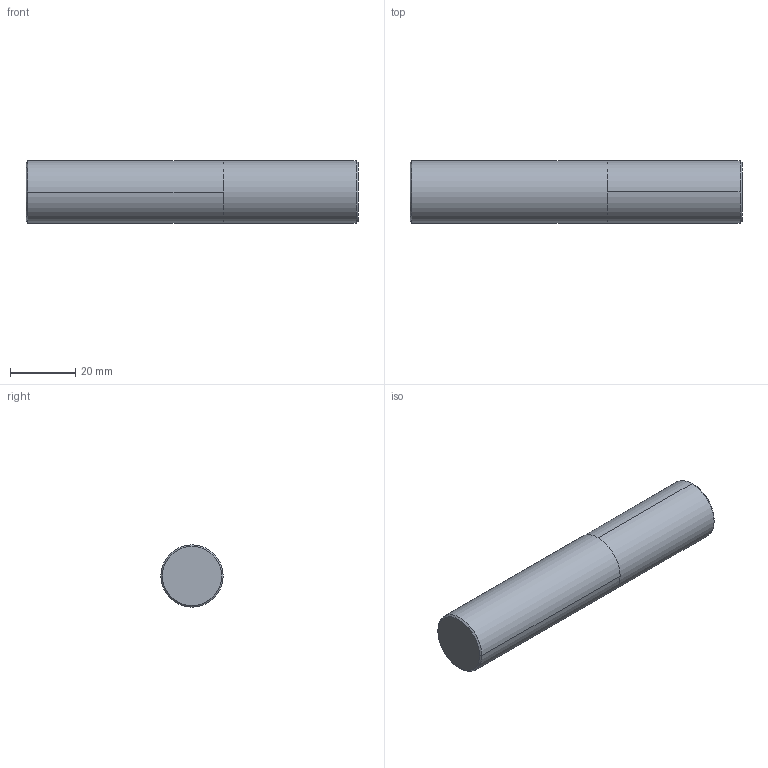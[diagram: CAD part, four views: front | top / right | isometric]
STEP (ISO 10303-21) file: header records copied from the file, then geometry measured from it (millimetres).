
FILE_DESCRIPTION (( 'STEP AP214' ), '1' );
FILE_NAME ('EH095048.STEP', '2021-03-15T00:38:30', ( 'USER' ), ( 'Hewlett-Packard Company' ), 'SwSTEP 2.0', 'SolidWorks 2014', '' );
FILE_SCHEMA (( 'AUTOMOTIVE_DESIGN' ));
Length unit declared in the file: millimetre
Products named in the file (1): EH095048
Bounding box: 101.6 x 19.05 x 19.05 mm (x, y, z)
Volume: 28940.1 mm3; surface area: 7180.9 mm2
Topology: 2 solids, 2 shells, 12 faces, 20 edges, 12 vertices
Faces by surface type: cylinder 4, cone 4, plane 4
Entity records: 393 total; most frequent: DIRECTION 58, CARTESIAN_POINT 45, ORIENTED_EDGE 40, AXIS2_PLACEMENT_3D 25, EDGE_CURVE 20, EDGE_LOOP 12, VERTEX_POINT 12, ADVANCED_FACE 12
